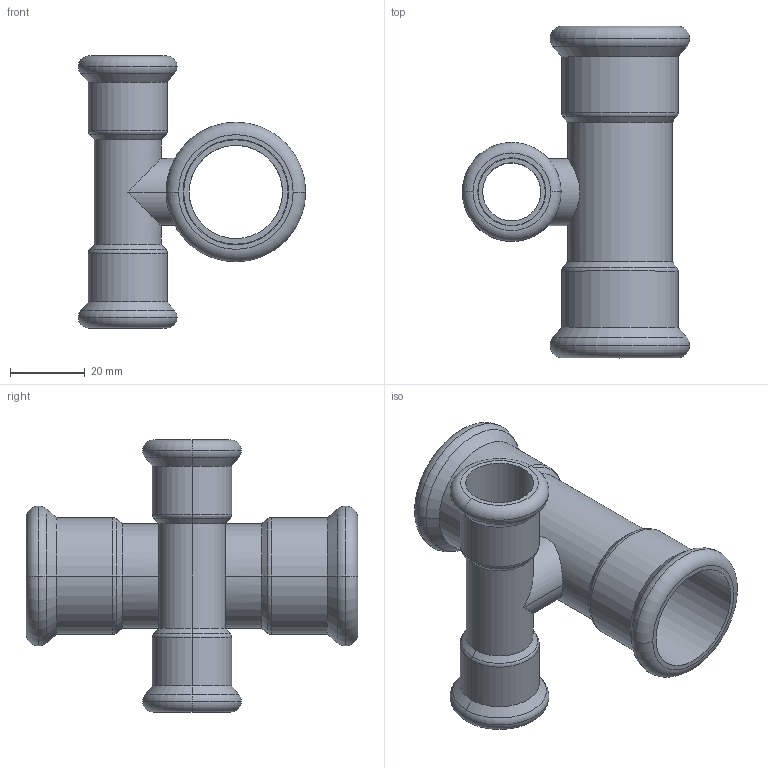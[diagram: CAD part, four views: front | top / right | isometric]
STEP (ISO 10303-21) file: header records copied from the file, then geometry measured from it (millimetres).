
FILE_DESCRIPTION(('CoCreate Modeling STEP Export'),'2;1');
FILE_NAME('C1434 28x18x28x18.stp','2014-11-12T16:29:45',(''),(''),'CoCreate Modeling STEP processor for AP214 (Solid Model)','CoCreate Modeling 17.00A 17-Jun-2010 (C) Parametric Technology GmbH','');
FILE_SCHEMA(('AUTOMOTIVE_DESIGN { 1 0 10303 214 1 1 1 1 }'));
Length unit declared in the file: millimetre
Products named in the file (2): C1434_28x18x28x18
Assembly tree (1 placements, depth 2):
  C1434_28x18x28x18
    C1434_28x18x28x18
Bounding box: 60.98 x 89 x 73 mm (x, y, z)
Volume: 24164.7 mm3; surface area: 27103.9 mm2
Topology: 1 solids, 1 shells, 88 faces, 193 edges, 113 vertices
Faces by surface type: cylinder 36, torus 24, cone 16, plane 12
Entity records: 3646 total; most frequent: CARTESIAN_POINT 1961, ORIENTED_EDGE 386, DIRECTION 296, EDGE_CURVE 193, AXIS2_PLACEMENT_3D 122, VERTEX_POINT 113, EDGE_LOOP 100, FACE_OUTER_BOUND 88
